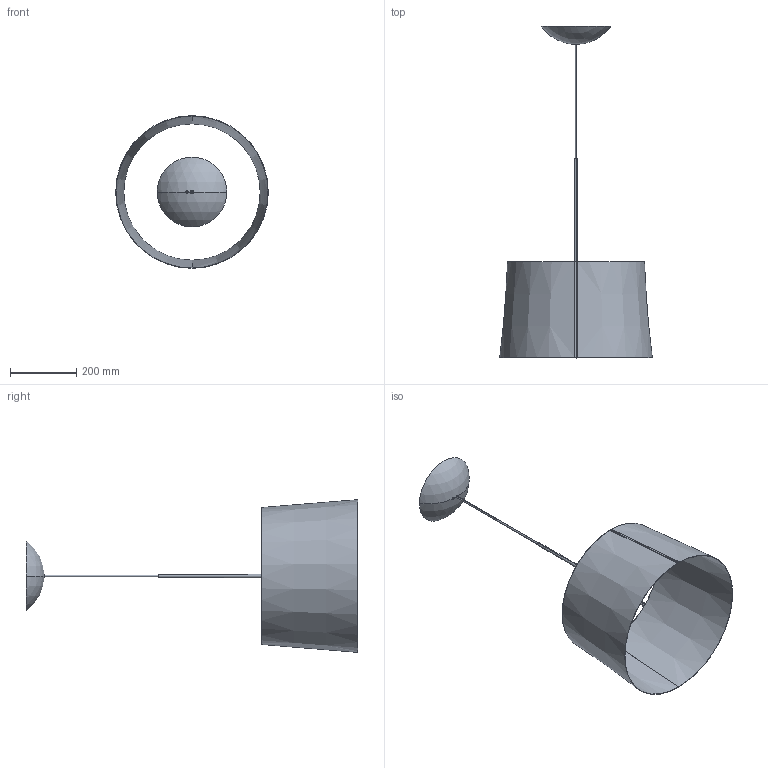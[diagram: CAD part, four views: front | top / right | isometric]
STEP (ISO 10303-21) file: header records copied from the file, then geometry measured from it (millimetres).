
FILE_DESCRIPTION (( 'STEP AP203' ), '1' );
FILE_NAME ('159_WOOD_S_PL_3D.STEP', '2021-10-19T09:14:51', ( '' ), ( '' ), 'SwSTEP 2.0', 'SolidWorks 2021', '' );
FILE_SCHEMA (( 'CONFIG_CONTROL_DESIGN' ));
Length unit declared in the file: millimetre
Products named in the file (1): 159_WOOD_S_PL_3D
Bounding box: 459.98 x 1000.08 x 460.14 mm (x, y, z)
Volume: 1464379.8 mm3; surface area: 913041.5 mm2
Topology: 3 solids, 3 shells, 37 faces, 82 edges, 48 vertices
Faces by surface type: cone 21, plane 8, cylinder 4, bspline 2, sphere 2
Entity records: 1417 total; most frequent: CARTESIAN_POINT 509, DIRECTION 189, ORIENTED_EDGE 164, EDGE_CURVE 82, AXIS2_PLACEMENT_3D 79, VERTEX_POINT 48, CIRCLE 43, EDGE_LOOP 38
